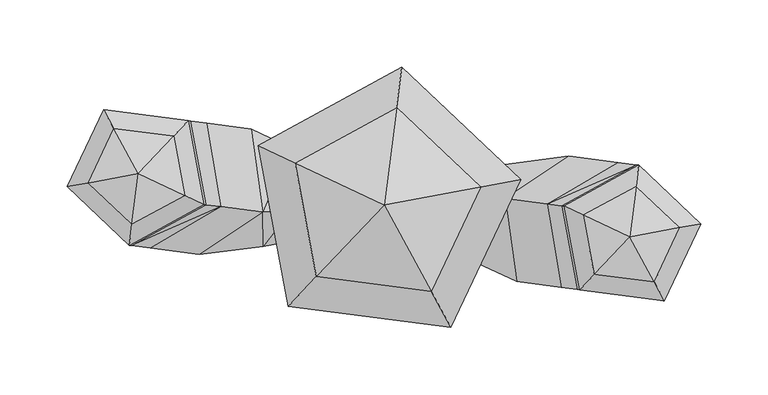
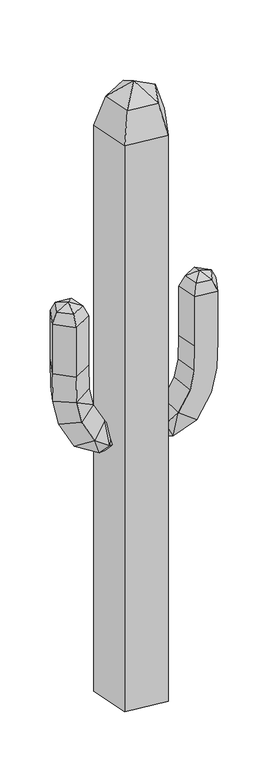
"""IFC4 building model written with IfcOpenShell, lengths in millimetres: geographic element geometry, Enscape AssetDefinition - Potted Plant 132 Cactus : Enscape AssetDefinition - Potted Plant 132 Cactus 2."""

from ifc_helpers import new_model, si_unit, origin, place, context, project, spatial, triangles, source, transform, mapped, element, save


def geographic_element_5726619b(model_context):
    return source(origin(), model_context, "Body", "Tessellation", [
        triangles([(189.7129478, 29.811457, 1050.4826094), (187.6652711, 14.0320559, 1238.1532036), (189.7129478, 29.811457, 1206.4552837), (182.7625907, -23.7282573, 1254.0026722), (148.3656351, -7.3976101, 1238.1532036), (133.9916396, -0.5733473, 1206.4552837), (133.9916396, -0.5733473, 1050.4826094), (145.6692063, -62.9576897, 1050.4826094), (145.6692063, -62.9576897, 1206.4552837), (156.6018147, -51.3958318, 1238.1532036), (220.1900664, -16.7219785, 1238.1532036), (235.8290282, -13.7941367, 1206.4552837), (200.9913654, -57.1579119, 1238.1532036), (208.6086875, -71.1275625, 1206.4552837), (187.7549822, 30.0662789, 970.2439751), (132.3729975, -0.3627299, 976.1738457), (143.9205575, -62.7301736, 973.9089403), (235.8290282, -13.7941367, 1050.4826094), (208.6086875, -71.1275625, 1050.4826094), (206.4401244, -70.8467385, 966.5803179), (132.0141804, -61.1843422, 915.7954817), (191.1677463, -68.8640742, 894.1136656), (174.1649687, 31.8305244, 904.9525389), (217.2167195, -11.3772386, 887.4129118), (233.5304585, -13.4951122, 964.3142498), (150.8774367, -63.6324486, 817.7010332), (174.7630064, -5.8660834, 806.7204535), (89.8191996, 30.5187177, 799.2720709), (137.3771252, 36.6071178, 835.4696434), (121.5067185, 1.0478864, 922.4949274), (98.7275403, -56.8627901, 853.2382536), (90.3847628, 5.0886196, 864.217598), (102.8644789, -0.3198264, 763.2616962), (90.4393652, -45.8664818, 777.0155806), (15.1774518, 3.7846121, 775.3852295), (12.6409424, -1.6407352, 792.4854939), (15.0188382, 16.6725743, 792.4854939), (69.3308199, 4.0329325, 835.2824455), (11.5735543, 4.2513501, 809.5832148), (9.6038924, -16.3137435, 803.0527994), (11.8309753, -16.6023694, 781.9168802), (69.7143539, -43.1752625, 821.5273985), (-235.8290282, 13.7928377, 1050.4826094), (-189.7129478, -29.8127606, 1206.4552837), (-187.6652711, -14.033356, 1238.1532036), (-189.7129478, -29.8127606, 1050.4826094), (-132.3729975, 0.3614298, 976.1738457), (-133.9916396, 0.5720471, 1050.4826094), (-133.9916396, 0.5720471, 1206.4552837), (-143.9205575, 62.7288655, 973.9089403), (-145.6692063, 62.9550917, 1050.4826094), (-145.6692063, 62.9550917, 1206.4552837), (-235.8290282, 13.7928377, 1206.4552837), (-208.6086875, 71.1275625, 1206.4552837), (-208.6086875, 71.1275625, 1050.4826094), (-206.4401244, 70.845444, 966.5803179), (-220.1900664, 16.7206784, 1238.1532036), (-200.9913654, 57.1579119, 1238.1532036), (-182.7625907, 23.7269561, 1254.0026722), (-148.3656351, 7.3963094, 1238.1532036), (-156.6018147, 51.3945374, 1238.1532036), (-132.0141804, 61.1830478, 915.7954817), (-233.5304585, 13.4938109, 964.3142498), (-191.1677463, 68.8627753, 894.1136656), (-217.2167195, 11.3759374, 887.4129118), (-174.1649687, -31.8305244, 904.9525389), (-187.7549822, -30.0662789, 970.2439751), (-102.8644789, 0.3198264, 763.2616962), (-137.3771252, -36.6071178, 835.4696434), (-174.7630064, 5.8647838, 806.7204535), (-90.4393652, 45.8651783, 777.0155806), (-150.8774367, 63.6324486, 817.7010332), (-90.3847628, -5.0886196, 864.217598), (-89.8191996, -30.5187177, 799.2720709), (-69.3308199, -4.0342324, 835.2824455), (-15.0188382, -16.6738732, 792.4854939), (-11.8309753, 16.601067, 781.9168802), (-15.1774518, -3.7846121, 775.3852295), (-11.5735543, -4.2513501, 809.5832148), (-9.6038924, 16.3124457, 803.0527994), (-98.7275403, 56.8614865, 853.2382536), (-69.7143539, 43.1752625, 821.5273985), (-12.6409424, 1.6407352, 792.4854939), (-121.5067185, -1.0491865, 922.4949274), (9.4153768, 72.5264779, 1855.4142185), (101.9258007, 19.0790725, 1766.2450974), (13.350801, 102.8332762, 1766.2450974), (13.350801, 102.8332762, -17.9258771), (49.6432907, -91.0413089, -17.9258771), (101.9258007, 19.0803738, -17.9258771), (71.8868321, 13.4561088, 1855.4142185), (-71.2458738, -75.3477128, -17.9258771), (-93.6753232, 44.4753739, -17.9258771), (-71.2458738, -75.3477128, 1766.2450974), (35.0131881, -64.2109971, 1855.4142185), (49.6432907, -91.0426078, 1766.2450974), (0.0, 0.0, 1900.0000145), (-50.2478414, -53.1418826, 1855.4142185), (-93.6753232, 44.4740704, 1766.2450974), (-66.0675471, 31.3663858, 1855.4142185)], [[99, 100, 85], [100, 97, 85], [98, 100, 99], [98, 97, 100], [95, 97, 98], [91, 97, 95], [85, 97, 91], [91, 95, 96], [95, 98, 94], [95, 94, 96], [98, 99, 94], [94, 99, 93], [96, 94, 92], [94, 93, 92], [96, 92, 89], [85, 91, 86], [86, 96, 89], [91, 96, 86], [92, 90, 89], [92, 93, 90], [86, 89, 90], [93, 88, 90], [99, 88, 93], [99, 87, 88], [87, 86, 90], [99, 85, 87], [85, 86, 87], [87, 90, 88], [50, 84, 62], [84, 81, 62], [79, 83, 80], [80, 83, 77], [82, 80, 77], [81, 82, 71], [82, 77, 71], [84, 73, 81], [73, 82, 81], [75, 79, 80], [73, 75, 82], [75, 80, 82], [76, 79, 75], [76, 83, 79], [71, 77, 78], [78, 83, 76], [77, 83, 78], [78, 76, 74], [74, 75, 73], [76, 75, 74], [69, 73, 84], [74, 73, 69], [68, 74, 69], [78, 74, 68], [71, 78, 68], [72, 71, 68], [62, 81, 72], [81, 71, 72], [72, 68, 70], [68, 69, 70], [67, 66, 84], [70, 69, 66], [69, 84, 66], [70, 66, 65], [64, 72, 70], [62, 72, 64], [64, 70, 65], [63, 65, 66], [63, 64, 65], [63, 66, 67], [43, 63, 67], [56, 50, 62], [63, 56, 64], [56, 62, 64], [43, 56, 63], [61, 59, 60], [60, 59, 45], [58, 59, 61], [57, 59, 58], [45, 59, 57], [45, 57, 53], [43, 55, 56], [55, 50, 56], [53, 55, 43], [57, 58, 54], [53, 54, 55], [57, 54, 53], [58, 61, 52], [58, 52, 54], [55, 51, 50], [54, 52, 51], [54, 51, 55], [50, 47, 84], [67, 84, 47], [51, 47, 50], [51, 48, 47], [52, 48, 51], [49, 60, 45], [61, 60, 49], [52, 49, 48], [61, 49, 52], [46, 67, 47], [46, 47, 48], [43, 67, 46], [49, 46, 48], [49, 44, 46], [44, 53, 43], [49, 45, 44], [45, 53, 44], [44, 43, 46], [31, 34, 26], [31, 42, 34], [42, 40, 41], [42, 41, 34], [40, 36, 41], [39, 36, 40], [38, 39, 40], [38, 40, 42], [37, 39, 38], [37, 36, 39], [34, 41, 35], [35, 36, 37], [41, 36, 35], [26, 34, 33], [34, 35, 33], [35, 37, 28], [35, 28, 33], [37, 38, 28], [32, 38, 42], [28, 38, 32], [32, 42, 31], [30, 32, 31], [33, 28, 29], [29, 32, 30], [28, 32, 29], [26, 33, 27], [33, 29, 27], [27, 29, 23], [29, 30, 23], [27, 23, 24], [15, 23, 30], [18, 15, 1], [18, 25, 15], [25, 24, 23], [25, 23, 15], [22, 26, 27], [25, 22, 24], [22, 27, 24], [21, 31, 26], [30, 31, 21], [21, 26, 22], [25, 20, 22], [20, 21, 22], [18, 20, 25], [18, 19, 20], [12, 19, 18], [20, 17, 21], [17, 30, 21], [19, 17, 20], [1, 15, 16], [17, 16, 30], [15, 30, 16], [1, 16, 7], [8, 7, 16], [19, 8, 17], [8, 16, 17], [12, 14, 19], [14, 8, 19], [12, 13, 14], [12, 11, 13], [11, 4, 13], [14, 13, 10], [13, 4, 10], [14, 9, 8], [14, 10, 9], [9, 7, 8], [9, 6, 7], [6, 1, 7], [9, 10, 5], [10, 4, 5], [9, 5, 6], [2, 11, 12], [5, 4, 2], [2, 4, 11], [5, 2, 3], [6, 3, 1], [3, 12, 18], [5, 3, 6], [2, 12, 3], [3, 18, 1]]),
    ])


if __name__ == "__main__":
    model = new_model("IFC4")
    model_context = context("Model", 3, world=origin())
    ifc_project = project(units=[si_unit("LENGTHUNIT", "METRE", prefix="MILLI")], contexts=[model_context])
    site = spatial("IfcSite", under=ifc_project)
    building = spatial("IfcBuilding", under=site)
    placement = place(None, origin())
    geographic_element_shape = geographic_element_5726619b(model_context)
    element("IfcGeographicElement", 1, ObjectType="Enscape AssetDefinition - Potted Plant 132 Cactus : Enscape AssetDefinition - Potted Plant 132 Cactus 2", at=placement, inside=building, context=model_context, shape_type="MappedRepresentation", body=[
        mapped(geographic_element_shape, transform((0.0, 0.0, 0.0), x_axis=(1.0, 0.0, 0.0), y_axis=(0.0, 1.0, 0.0), z_axis=(0.0, 0.0, 1.0))),
    ])
    save(model, "model.ifc")
